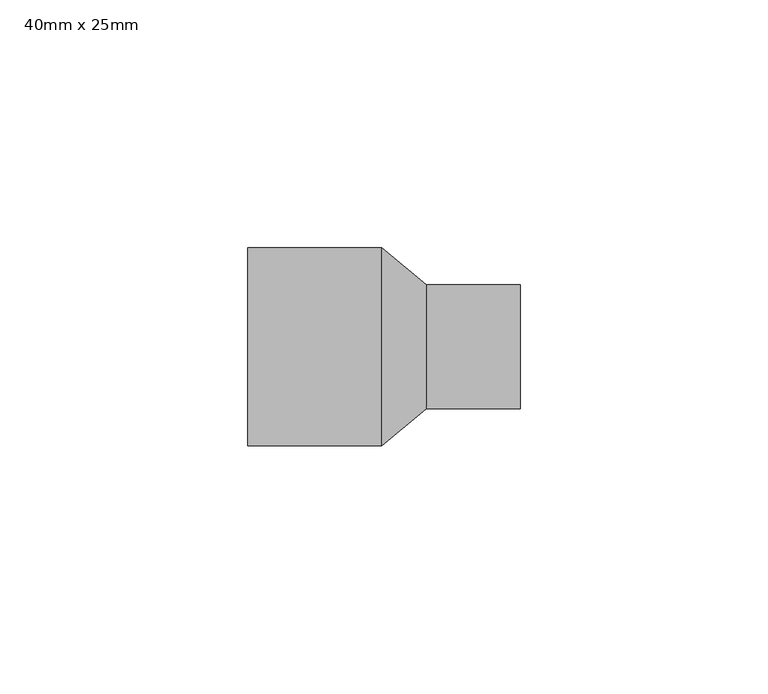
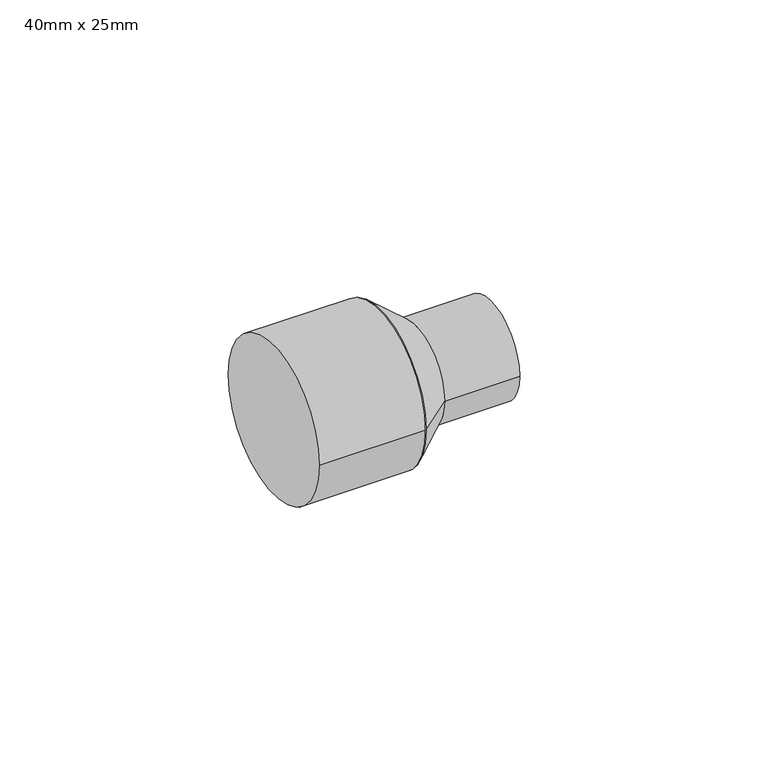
"""IFC4 building model written with IfcOpenShell, lengths in millimetres: pipe fitting geometry, PipeFitting_HTA_CPVC_ReducingBushesLongPattern : 40mm x 25mm."""

from ifc_helpers import new_model, si_unit, point, frame, origin, origin_2d, place, context, project, spatial, polyline, circle_curve, trimmed, segment, composite_curve, outline, extrude, source, transform, mapped, element, save
from ifc_brep_helpers import plane_surface, revolved_surface, advanced_brep


def pipe_fitting_40mm_x_25mm_b7132ab9(model_context):
    return source(origin(), model_context, "Body", "SolidModel", [
        advanced_brep(
        [(36.0, -12.5, 0.0), (36.0, 12.5, 0.0), (27.0, -20.0, 0.0), (27.0, 20.0, 0.0)],
        [
            (0, 1, circle_curve(frame((36.0, 0.0, 0.0), z_axis=(1.0, 0.0, 0.0), x_axis=(0.0, -1.0, 0.0)), 12.5)),
            (1, 0, circle_curve(frame((36.0, 0.0, 0.0), z_axis=(1.0, 0.0, 0.0), x_axis=(0.0, 1.0, 0.0)), 12.5)),
            (2, 3, circle_curve(frame((27.0, 0.0, 0.0), z_axis=(-1.0, 0.0, 0.0), x_axis=(0.0, 1.0, 0.0)), 20.0)),
            (3, 2, circle_curve(frame((27.0, 0.0, 0.0), z_axis=(-1.0, 0.0, 0.0), x_axis=(0.0, -1.0, 0.0)), 20.0)),
            (3, 1),
            (0, 2),
        ],
        [
            plane_surface(frame((36.0, 0.0, 0.0), z_axis=(1.0, 0.0, 0.0), x_axis=(0.0, 0.0, -1.0))),
            plane_surface(frame((27.0, 0.0, 0.0), z_axis=(-1.0, 0.0, 0.0), x_axis=(0.0, 0.0, -1.0))),
            revolved_surface(polyline([(36.0, -12.5, 0.0), (27.0, -20.0, 0.0)]), (51.0, 0.0, 0.0), (-1.0, 0.0, 0.0)),
            revolved_surface(polyline([(36.0, 12.5, 0.0), (27.0, 20.0, 0.0)]), (51.0, 0.0, 0.0), (-1.0, 0.0, 0.0)),
        ],
        [
            (0, [[1, 2]]),
            (1, [[3, 4]]),
            (2, [[-4, 5, -1, 6]]),
            (3, [[-3, -6, -2, -5]]),
        ],
    ),
        extrude(outline(composite_curve([segment(trimmed(circle_curve(origin_2d(), 12.5), [point((-12.5, 0.0))], [point((12.5, 0.0))], False, "CARTESIAN"), True, "CONTINUOUS"), segment(trimmed(circle_curve(origin_2d(), 12.5), [point((12.5, 0.0))], [point((-12.5, 0.0))], False, "CARTESIAN"), True, "CONTINUOUS")], self_intersect=False)), frame((36.0, 0.0, 0.0), z_axis=(1.0, 0.0, 0.0), x_axis=(0.0, 1.0, 0.0)), (0.0, 0.0, 1.0), 19.0),
        extrude(outline(composite_curve([segment(trimmed(circle_curve(origin_2d(), 20.0), [point((-20.0, 0.0))], [point((20.0, 0.0))], False, "CARTESIAN"), True, "CONTINUOUS"), segment(trimmed(circle_curve(origin_2d(), 20.0), [point((20.0, 0.0))], [point((-20.0, 0.0))], False, "CARTESIAN"), True, "CONTINUOUS")], self_intersect=False)), frame((0.0, 0.0, 0.0), z_axis=(1.0, 0.0, 0.0), x_axis=(0.0, 1.0, 0.0)), (0.0, 0.0, 1.0), 27.0),
    ])


if __name__ == "__main__":
    model = new_model("IFC4")
    model_context = context("Model", 3, world=origin())
    ifc_project = project(units=[si_unit("LENGTHUNIT", "METRE", prefix="MILLI")], contexts=[model_context])
    site = spatial("IfcSite", under=ifc_project)
    building = spatial("IfcBuilding", under=site)
    placement = place(None, origin())
    pipe_fitting_40mm_x_25mm_shape = pipe_fitting_40mm_x_25mm_b7132ab9(model_context)
    element("IfcPipeFitting", 1, ObjectType="PipeFitting_HTA_CPVC_ReducingBushesLongPattern : 40mm x 25mm", at=placement, inside=building, context=model_context, shape_type="MappedRepresentation", body=[
        mapped(pipe_fitting_40mm_x_25mm_shape, transform((0.0, 0.0, 0.0), x_axis=(1.0, 0.0, 0.0), y_axis=(0.0, 1.0, 0.0), z_axis=(0.0, 0.0, 1.0))),
    ])
    save(model, "model.ifc")
